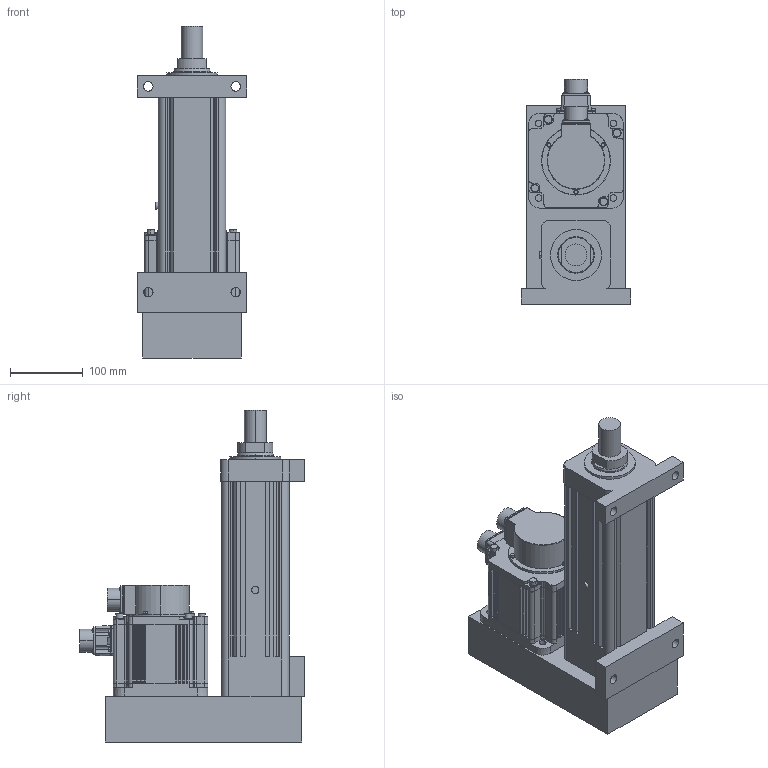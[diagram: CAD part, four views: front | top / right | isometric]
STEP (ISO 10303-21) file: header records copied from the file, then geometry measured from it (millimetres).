
FILE_DESCRIPTION (( 'STEP AP203' ), '1' );
FILE_NAME ('S4殏殿耜醱假蚾.STEP', '2024-08-15T01:05:52', ( '' ), ( '' ), 'SwSTEP 2.0', 'SolidWorks 2018', '' );
FILE_SCHEMA (( 'CONFIG_CONTROL_DESIGN' ));
Length unit declared in the file: millimetre
Products named in the file (3): S4殏殿耜醱假蚾; ECMA-FX1308ES-130框號系列機種-0.85KW高慣量系列; S4殏殿耜醱
Assembly tree (2 placements, depth 2):
  S4殏殿耜醱假蚾
    S4殏殿耜醱
    ECMA-FX1308ES-130框號系列機種-0.85KW高慣量系列
Bounding box: 150 x 308.94 x 456 mm (x, y, z)
Volume: 5916037 mm3; surface area: 597151.2 mm2
Topology: 3 solids, 15 shells, 936 faces, 2240 edges, 1390 vertices
Faces by surface type: plane 414, cylinder 353, cone 101, torus 47, sphere 20, bspline 1
Entity records: 28018 total; most frequent: CARTESIAN_POINT 5427, DIRECTION 4924, ORIENTED_EDGE 4476, EDGE_CURVE 2238, AXIS2_PLACEMENT_3D 1826, VERTEX_POINT 1390, VECTOR 1272, LINE 1272
